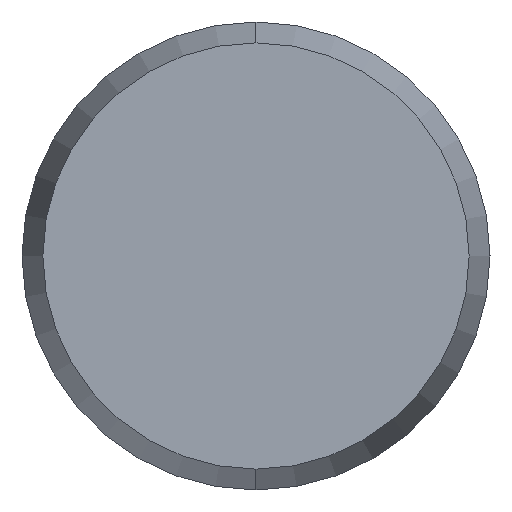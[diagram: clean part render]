
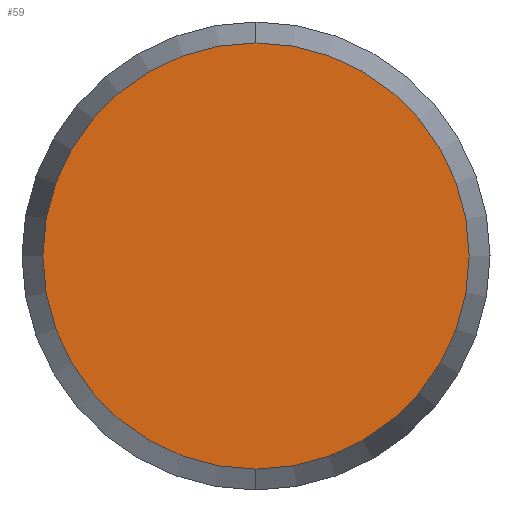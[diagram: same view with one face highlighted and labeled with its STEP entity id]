
A CAD part, left-side view. The second image highlights one B-rep face of the part: STEP entity #59.
In plain terms, the highlighted planar face has unit normal (-1, 0, 0).
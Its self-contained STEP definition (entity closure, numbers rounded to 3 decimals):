
#30 = EDGE_LOOP ( 'NONE', ( #67, #38 ) ) ;
#38 = ORIENTED_EDGE ( 'NONE', *, *, #61, .F. ) ;
#59 = ADVANCED_FACE ( 'NONE', ( #156 ), #152, .F. ) ;
#60 = EDGE_CURVE ( 'NONE', #65, #66, #150, .T. ) ;
#61 = EDGE_CURVE ( 'NONE', #66, #65, #142, .T. ) ;
#65 = VERTEX_POINT ( 'NONE', #133 ) ;
#66 = VERTEX_POINT ( 'NONE', #130 ) ;
#67 = ORIENTED_EDGE ( 'NONE', *, *, #60, .F. ) ;
#130 = CARTESIAN_POINT ( 'NONE',  ( -10., 0., -2.732 ) ) ;
#133 = CARTESIAN_POINT ( 'NONE',  ( -10., 0., 2.732 ) ) ;
#138 = DIRECTION ( 'NONE',  ( 0., 0., -1. ) ) ;
#139 = DIRECTION ( 'NONE',  ( 1., 0., 0. ) ) ;
#140 = CARTESIAN_POINT ( 'NONE',  ( -10., 0., 0. ) ) ;
#141 = AXIS2_PLACEMENT_3D ( 'NONE', #140, #139, #138 ) ;
#142 = CIRCLE ( 'NONE', #141, 2.732 ) ;
#143 = DIRECTION ( 'NONE',  ( 0., 0., -1. ) ) ;
#144 = DIRECTION ( 'NONE',  ( 1., 0., 0. ) ) ;
#145 = CARTESIAN_POINT ( 'NONE',  ( -10., 0., 0. ) ) ;
#146 = AXIS2_PLACEMENT_3D ( 'NONE', #145, #144, #143 ) ;
#147 = DIRECTION ( 'NONE',  ( 0., 0., -1. ) ) ;
#148 = DIRECTION ( 'NONE',  ( 1., 0., 0. ) ) ;
#149 = CARTESIAN_POINT ( 'NONE',  ( -10., 0., 0. ) ) ;
#150 = CIRCLE ( 'NONE', #146, 2.732 ) ;
#151 = AXIS2_PLACEMENT_3D ( 'NONE', #149, #148, #147 ) ;
#152 = PLANE ( 'NONE',  #151 ) ;
#156 = FACE_OUTER_BOUND ( 'NONE', #30, .T. ) ;
